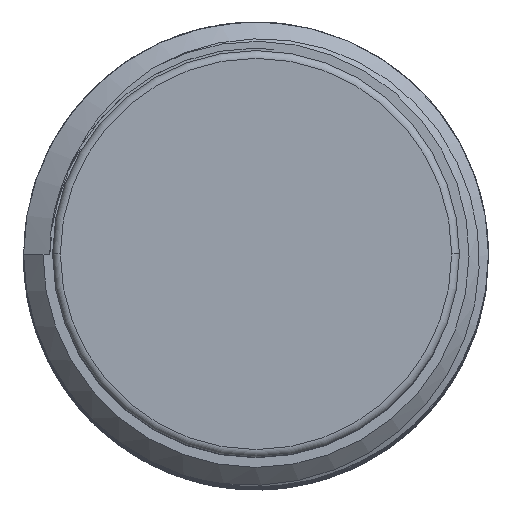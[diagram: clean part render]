
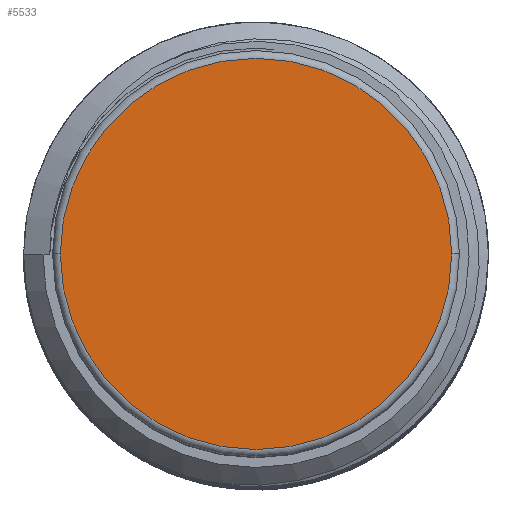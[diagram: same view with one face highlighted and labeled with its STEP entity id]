
A CAD part, top view. The second image highlights one B-rep face of the part: STEP entity #5533.
In plain terms, the highlighted planar face has unit normal (0, 0, 1).
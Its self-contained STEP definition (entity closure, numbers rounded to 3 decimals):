
#349 = CIRCLE ( 'NONE', #11025, 5.05 ) ;
#633 = CARTESIAN_POINT ( 'NONE',  ( -5.05, 0., 55. ) ) ;
#935 = EDGE_CURVE ( 'NONE', #3707, #2167, #349, .T. ) ;
#1448 = PLANE ( 'NONE',  #11949 ) ;
#2167 = VERTEX_POINT ( 'NONE', #7223 ) ;
#2361 = ORIENTED_EDGE ( 'NONE', *, *, #12051, .T. ) ;
#2362 = CARTESIAN_POINT ( 'NONE',  ( 0., 0., 55. ) ) ;
#2496 = FACE_OUTER_BOUND ( 'NONE', #8881, .T. ) ;
#2866 = DIRECTION ( 'NONE',  ( 1., 0., 0. ) ) ;
#3578 = DIRECTION ( 'NONE',  ( 1., 0., 0. ) ) ;
#3707 = VERTEX_POINT ( 'NONE', #633 ) ;
#3731 = CIRCLE ( 'NONE', #13734, 5.05 ) ;
#3945 = DIRECTION ( 'NONE',  ( 0., 0., 1. ) ) ;
#4331 = DIRECTION ( 'NONE',  ( 1., 0., 0. ) ) ;
#4532 = CARTESIAN_POINT ( 'NONE',  ( 0., 0., 55. ) ) ;
#5533 = ADVANCED_FACE ( 'NONE', ( #2496 ), #1448, .T. ) ;
#6296 = CARTESIAN_POINT ( 'NONE',  ( 0., 0., 55. ) ) ;
#7223 = CARTESIAN_POINT ( 'NONE',  ( 5.05, 0., 55. ) ) ;
#7800 = DIRECTION ( 'NONE',  ( 0., 0., 1. ) ) ;
#8881 = EDGE_LOOP ( 'NONE', ( #2361, #12877 ) ) ;
#11025 = AXIS2_PLACEMENT_3D ( 'NONE', #6296, #3945, #2866 ) ;
#11257 = DIRECTION ( 'NONE',  ( 0., 0., 1. ) ) ;
#11949 = AXIS2_PLACEMENT_3D ( 'NONE', #2362, #11257, #3578 ) ;
#12051 = EDGE_CURVE ( 'NONE', #2167, #3707, #3731, .T. ) ;
#12877 = ORIENTED_EDGE ( 'NONE', *, *, #935, .T. ) ;
#13734 = AXIS2_PLACEMENT_3D ( 'NONE', #4532, #7800, #4331 ) ;
